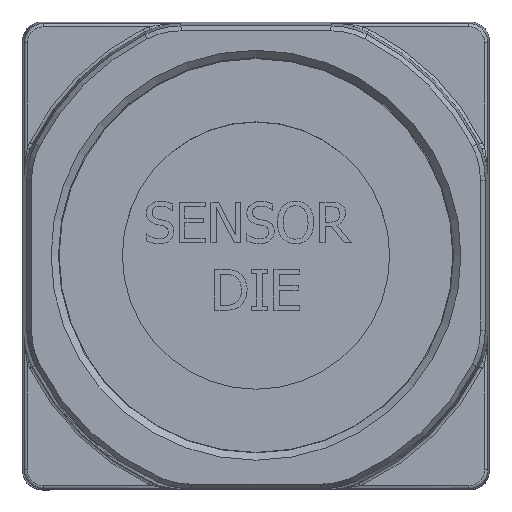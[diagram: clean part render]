
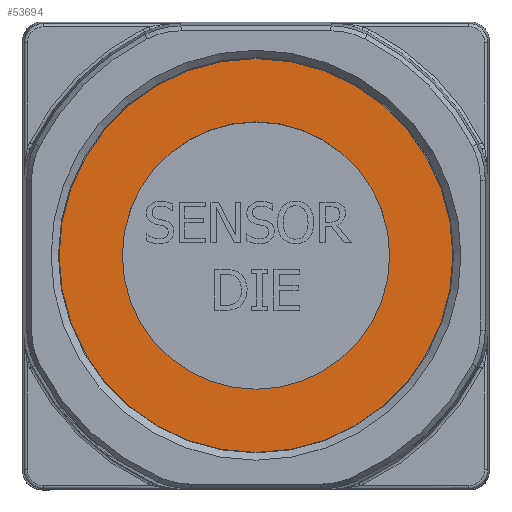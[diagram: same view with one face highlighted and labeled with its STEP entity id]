
A CAD part, top view. The second image highlights one B-rep face of the part: STEP entity #53694.
In plain terms, the highlighted planar face has unit normal (0, 0, 1).
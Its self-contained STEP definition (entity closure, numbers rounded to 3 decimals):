
#11617=FACE_BOUND('',#15891,.T.);
#13004=FACE_OUTER_BOUND('',#15890,.T.);
#15890=EDGE_LOOP('',(#37978));
#15891=EDGE_LOOP('',(#37979));
#18214=CIRCLE('',#56169,12.225);
#18713=CIRCLE('',#57274,8.3);
#20385=VERTEX_POINT('',#77615);
#21474=VERTEX_POINT('',#83332);
#26041=EDGE_CURVE('',#20385,#20385,#18214,.T.);
#27676=EDGE_CURVE('',#21474,#21474,#18713,.T.);
#37978=ORIENTED_EDGE('',*,*,#26041,.F.);
#37979=ORIENTED_EDGE('',*,*,#27676,.T.);
#49004=PLANE('',#57301);
#53694=ADVANCED_FACE('',(#13004,#11617),#49004,.T.);
#56169=AXIS2_PLACEMENT_3D('',#77616,#61635,#61636);
#57274=AXIS2_PLACEMENT_3D('',#83333,#64600,#64601);
#57301=AXIS2_PLACEMENT_3D('',#83459,#64661,#64662);
#61635=DIRECTION('center_axis',(0.,0.,-1.));
#61636=DIRECTION('ref_axis',(0.,1.,0.));
#64600=DIRECTION('center_axis',(0.,0.,-1.));
#64601=DIRECTION('ref_axis',(1.,0.,0.));
#64661=DIRECTION('center_axis',(0.,0.,1.));
#64662=DIRECTION('ref_axis',(-1.,0.,0.));
#77615=CARTESIAN_POINT('',(0.,-12.225,0.));
#77616=CARTESIAN_POINT('Origin',(0.,0.,0.));
#83332=CARTESIAN_POINT('',(-8.3,0.,0.));
#83333=CARTESIAN_POINT('Origin',(0.,0.,0.));
#83459=CARTESIAN_POINT('Origin',(0.,0.,
0.));
